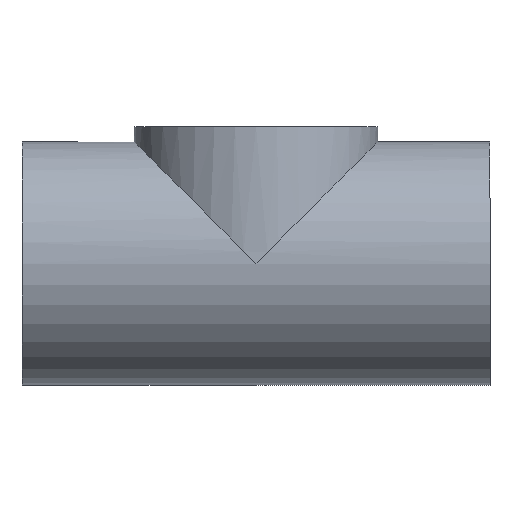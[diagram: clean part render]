
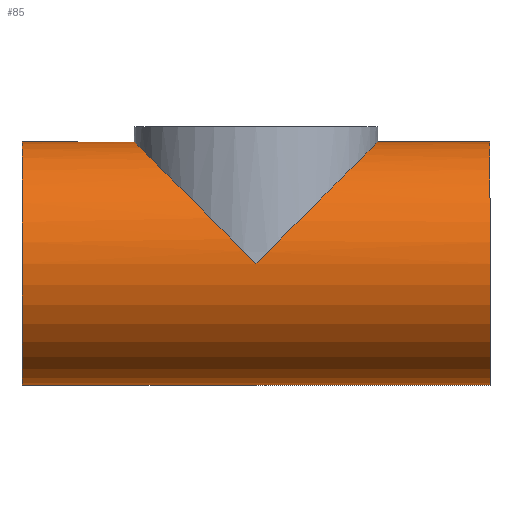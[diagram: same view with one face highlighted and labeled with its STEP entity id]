
A CAD part, front view. The second image highlights one B-rep face of the part: STEP entity #85.
In plain terms, the highlighted cylindrical face has radius 52 mm (diameter 104 mm), a full revolution.
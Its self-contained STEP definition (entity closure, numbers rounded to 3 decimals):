
#21 = EDGE_CURVE('',#22,#22,#24,.T.);
#22 = VERTEX_POINT('',#23);
#23 = CARTESIAN_POINT('',(-100.,0.,-52.));
#24 = SURFACE_CURVE('',#25,(#30,#42),.PCURVE_S1.);
#25 = CIRCLE('',#26,52.);
#26 = AXIS2_PLACEMENT_3D('',#27,#28,#29);
#27 = CARTESIAN_POINT('',(-100.,0.,0.));
#28 = DIRECTION('',(1.,-0.,0.));
#29 = DIRECTION('',(0.,0.,-1.));
#30 = PCURVE('',#31,#36);
#31 = PLANE('',#32);
#32 = AXIS2_PLACEMENT_3D('',#33,#34,#35);
#33 = CARTESIAN_POINT('',(-100.,0.,0.));
#34 = DIRECTION('',(1.,0.,0.));
#35 = DIRECTION('',(0.,0.,-1.));
#36 = DEFINITIONAL_REPRESENTATION('',(#37),#41);
#37 = CIRCLE('',#38,52.);
#38 = AXIS2_PLACEMENT_2D('',#39,#40);
#39 = CARTESIAN_POINT('',(0.,0.));
#40 = DIRECTION('',(1.,0.));
#41 = ( GEOMETRIC_REPRESENTATION_CONTEXT(2) 
PARAMETRIC_REPRESENTATION_CONTEXT() REPRESENTATION_CONTEXT('2D SPACE',''
  ) );
#42 = PCURVE('',#43,#48);
#43 = CYLINDRICAL_SURFACE('',#44,52.);
#44 = AXIS2_PLACEMENT_3D('',#45,#46,#47);
#45 = CARTESIAN_POINT('',(-100.,0.,0.));
#46 = DIRECTION('',(1.,0.,0.));
#47 = DIRECTION('',(0.,0.,-1.));
#48 = DEFINITIONAL_REPRESENTATION('',(#49),#53);
#49 = LINE('',#50,#51);
#50 = CARTESIAN_POINT('',(0.,0.));
#51 = VECTOR('',#52,1.);
#52 = DIRECTION('',(1.,0.));
#53 = ( GEOMETRIC_REPRESENTATION_CONTEXT(2) 
PARAMETRIC_REPRESENTATION_CONTEXT() REPRESENTATION_CONTEXT('2D SPACE',''
  ) );
#85 = ADVANCED_FACE('',(#86,#140),#43,.T.);
#86 = FACE_BOUND('',#87,.T.);
#87 = EDGE_LOOP('',(#88,#111,#138,#139));
#88 = ORIENTED_EDGE('',*,*,#89,.T.);
#89 = EDGE_CURVE('',#22,#90,#92,.T.);
#90 = VERTEX_POINT('',#91);
#91 = CARTESIAN_POINT('',(100.,0.,-52.));
#92 = SEAM_CURVE('',#93,(#97,#104),.PCURVE_S1.);
#93 = LINE('',#94,#95);
#94 = CARTESIAN_POINT('',(-100.,0.,-52.));
#95 = VECTOR('',#96,1.);
#96 = DIRECTION('',(1.,0.,0.));
#97 = PCURVE('',#43,#98);
#98 = DEFINITIONAL_REPRESENTATION('',(#99),#103);
#99 = LINE('',#100,#101);
#100 = CARTESIAN_POINT('',(6.283,-0.));
#101 = VECTOR('',#102,1.);
#102 = DIRECTION('',(0.,1.));
#103 = ( GEOMETRIC_REPRESENTATION_CONTEXT(2) 
PARAMETRIC_REPRESENTATION_CONTEXT() REPRESENTATION_CONTEXT('2D SPACE',''
  ) );
#104 = PCURVE('',#43,#105);
#105 = DEFINITIONAL_REPRESENTATION('',(#106),#110);
#106 = LINE('',#107,#108);
#107 = CARTESIAN_POINT('',(0.,-0.));
#108 = VECTOR('',#109,1.);
#109 = DIRECTION('',(0.,1.));
#110 = ( GEOMETRIC_REPRESENTATION_CONTEXT(2) 
PARAMETRIC_REPRESENTATION_CONTEXT() REPRESENTATION_CONTEXT('2D SPACE',''
  ) );
#111 = ORIENTED_EDGE('',*,*,#112,.F.);
#112 = EDGE_CURVE('',#90,#90,#113,.T.);
#113 = SURFACE_CURVE('',#114,(#119,#126),.PCURVE_S1.);
#114 = CIRCLE('',#115,52.);
#115 = AXIS2_PLACEMENT_3D('',#116,#117,#118);
#116 = CARTESIAN_POINT('',(100.,0.,0.));
#117 = DIRECTION('',(1.,-0.,0.));
#118 = DIRECTION('',(0.,0.,-1.));
#119 = PCURVE('',#43,#120);
#120 = DEFINITIONAL_REPRESENTATION('',(#121),#125);
#121 = LINE('',#122,#123);
#122 = CARTESIAN_POINT('',(0.,200.));
#123 = VECTOR('',#124,1.);
#124 = DIRECTION('',(1.,0.));
#125 = ( GEOMETRIC_REPRESENTATION_CONTEXT(2) 
PARAMETRIC_REPRESENTATION_CONTEXT() REPRESENTATION_CONTEXT('2D SPACE',''
  ) );
#126 = PCURVE('',#127,#132);
#127 = PLANE('',#128);
#128 = AXIS2_PLACEMENT_3D('',#129,#130,#131);
#129 = CARTESIAN_POINT('',(100.,0.,0.));
#130 = DIRECTION('',(1.,0.,0.));
#131 = DIRECTION('',(0.,0.,-1.));
#132 = DEFINITIONAL_REPRESENTATION('',(#133),#137);
#133 = CIRCLE('',#134,52.);
#134 = AXIS2_PLACEMENT_2D('',#135,#136);
#135 = CARTESIAN_POINT('',(0.,0.));
#136 = DIRECTION('',(1.,0.));
#137 = ( GEOMETRIC_REPRESENTATION_CONTEXT(2) 
PARAMETRIC_REPRESENTATION_CONTEXT() REPRESENTATION_CONTEXT('2D SPACE',''
  ) );
#138 = ORIENTED_EDGE('',*,*,#89,.F.);
#139 = ORIENTED_EDGE('',*,*,#21,.T.);
#140 = FACE_BOUND('',#141,.T.);
#141 = EDGE_LOOP('',(#142,#189,#227));
#142 = ORIENTED_EDGE('',*,*,#143,.F.);
#143 = EDGE_CURVE('',#144,#146,#148,.T.);
#144 = VERTEX_POINT('',#145);
#145 = CARTESIAN_POINT('',(0.,52.,0.));
#146 = VERTEX_POINT('',#147);
#147 = CARTESIAN_POINT('',(0.,-52.,0.));
#148 = SURFACE_CURVE('',#149,(#154,#169),.PCURVE_S1.);
#149 = ELLIPSE('',#150,73.539,52.);
#150 = AXIS2_PLACEMENT_3D('',#151,#152,#153);
#151 = CARTESIAN_POINT('',(0.,0.,0.));
#152 = DIRECTION('',(0.707,-0.,0.707));
#153 = DIRECTION('',(0.707,0.,-0.707));
#154 = PCURVE('',#43,#155);
#155 = DEFINITIONAL_REPRESENTATION('',(#156),#168);
#156 = B_SPLINE_CURVE_WITH_KNOTS('',10,(#157,#158,#159,#160,#161,#162,
    #163,#164,#165,#166,#167),.UNSPECIFIED.,.F.,.F.,(11,11),(
    1.571,4.712),.PIECEWISE_BEZIER_KNOTS.);
#157 = CARTESIAN_POINT('',(1.571,100.));
#158 = CARTESIAN_POINT('',(1.885,83.664));
#159 = CARTESIAN_POINT('',(2.199,67.327));
#160 = CARTESIAN_POINT('',(2.513,53.23));
#161 = CARTESIAN_POINT('',(2.827,43.612));
#162 = CARTESIAN_POINT('',(3.142,40.186));
#163 = CARTESIAN_POINT('',(3.456,43.612));
#164 = CARTESIAN_POINT('',(3.77,53.23));
#165 = CARTESIAN_POINT('',(4.084,67.327));
#166 = CARTESIAN_POINT('',(4.398,83.664));
#167 = CARTESIAN_POINT('',(4.712,100.));
#168 = ( GEOMETRIC_REPRESENTATION_CONTEXT(2) 
PARAMETRIC_REPRESENTATION_CONTEXT() REPRESENTATION_CONTEXT('2D SPACE',''
  ) );
#169 = PCURVE('',#170,#175);
#170 = CYLINDRICAL_SURFACE('',#171,52.);
#171 = AXIS2_PLACEMENT_3D('',#172,#173,#174);
#172 = CARTESIAN_POINT('',(0.,0.,0.));
#173 = DIRECTION('',(0.,0.,1.));
#174 = DIRECTION('',(1.,0.,0.));
#175 = DEFINITIONAL_REPRESENTATION('',(#176),#188);
#176 = B_SPLINE_CURVE_WITH_KNOTS('',10,(#177,#178,#179,#180,#181,#182,
    #183,#184,#185,#186,#187),.UNSPECIFIED.,.F.,.F.,(11,11),(
    1.571,4.712),.PIECEWISE_BEZIER_KNOTS.);
#177 = CARTESIAN_POINT('',(1.571,0.));
#178 = CARTESIAN_POINT('',(1.885,16.336));
#179 = CARTESIAN_POINT('',(2.199,32.673));
#180 = CARTESIAN_POINT('',(2.513,46.77));
#181 = CARTESIAN_POINT('',(2.827,56.388));
#182 = CARTESIAN_POINT('',(3.142,59.814));
#183 = CARTESIAN_POINT('',(3.456,56.388));
#184 = CARTESIAN_POINT('',(3.77,46.77));
#185 = CARTESIAN_POINT('',(4.084,32.673));
#186 = CARTESIAN_POINT('',(4.398,16.336));
#187 = CARTESIAN_POINT('',(4.712,0.));
#188 = ( GEOMETRIC_REPRESENTATION_CONTEXT(2) 
PARAMETRIC_REPRESENTATION_CONTEXT() REPRESENTATION_CONTEXT('2D SPACE',''
  ) );
#189 = ORIENTED_EDGE('',*,*,#190,.T.);
#190 = EDGE_CURVE('',#144,#191,#193,.T.);
#191 = VERTEX_POINT('',#192);
#192 = CARTESIAN_POINT('',(52.,0.,52.));
#193 = SURFACE_CURVE('',#194,(#199,#213),.PCURVE_S1.);
#194 = ELLIPSE('',#195,73.539,52.);
#195 = AXIS2_PLACEMENT_3D('',#196,#197,#198);
#196 = CARTESIAN_POINT('',(0.,0.,0.));
#197 = DIRECTION('',(0.707,0.,-0.707));
#198 = DIRECTION('',(0.707,0.,0.707));
#199 = PCURVE('',#43,#200);
#200 = DEFINITIONAL_REPRESENTATION('',(#201),#212);
#201 = B_SPLINE_CURVE_WITH_KNOTS('',9,(#202,#203,#204,#205,#206,#207,
    #208,#209,#210,#211),.UNSPECIFIED.,.F.,.F.,(10,10),(4.712,
    6.283),.PIECEWISE_BEZIER_KNOTS.);
#202 = CARTESIAN_POINT('',(1.571,100.));
#203 = CARTESIAN_POINT('',(1.745,109.076));
#204 = CARTESIAN_POINT('',(1.92,118.151));
#205 = CARTESIAN_POINT('',(2.094,126.827));
#206 = CARTESIAN_POINT('',(2.269,134.703));
#207 = CARTESIAN_POINT('',(2.443,141.413));
#208 = CARTESIAN_POINT('',(2.618,146.654));
#209 = CARTESIAN_POINT('',(2.793,150.218));
#210 = CARTESIAN_POINT('',(2.967,152.));
#211 = CARTESIAN_POINT('',(3.142,152.));
#212 = ( GEOMETRIC_REPRESENTATION_CONTEXT(2) 
PARAMETRIC_REPRESENTATION_CONTEXT() REPRESENTATION_CONTEXT('2D SPACE',''
  ) );
#213 = PCURVE('',#170,#214);
#214 = DEFINITIONAL_REPRESENTATION('',(#215),#226);
#215 = B_SPLINE_CURVE_WITH_KNOTS('',9,(#216,#217,#218,#219,#220,#221,
    #222,#223,#224,#225),.UNSPECIFIED.,.F.,.F.,(10,10),(4.712,
    6.283),.PIECEWISE_BEZIER_KNOTS.);
#216 = CARTESIAN_POINT('',(1.571,0.));
#217 = CARTESIAN_POINT('',(1.396,9.076));
#218 = CARTESIAN_POINT('',(1.222,18.151));
#219 = CARTESIAN_POINT('',(1.047,26.827));
#220 = CARTESIAN_POINT('',(0.873,34.703));
#221 = CARTESIAN_POINT('',(0.698,41.413));
#222 = CARTESIAN_POINT('',(0.524,46.654));
#223 = CARTESIAN_POINT('',(0.349,50.218));
#224 = CARTESIAN_POINT('',(0.175,52.));
#225 = CARTESIAN_POINT('',(0.,52.));
#226 = ( GEOMETRIC_REPRESENTATION_CONTEXT(2) 
PARAMETRIC_REPRESENTATION_CONTEXT() REPRESENTATION_CONTEXT('2D SPACE',''
  ) );
#227 = ORIENTED_EDGE('',*,*,#228,.T.);
#228 = EDGE_CURVE('',#191,#146,#229,.T.);
#229 = SURFACE_CURVE('',#230,(#235,#249),.PCURVE_S1.);
#230 = ELLIPSE('',#231,73.539,52.);
#231 = AXIS2_PLACEMENT_3D('',#232,#233,#234);
#232 = CARTESIAN_POINT('',(0.,0.,0.));
#233 = DIRECTION('',(0.707,0.,-0.707));
#234 = DIRECTION('',(0.707,0.,0.707));
#235 = PCURVE('',#43,#236);
#236 = DEFINITIONAL_REPRESENTATION('',(#237),#248);
#237 = B_SPLINE_CURVE_WITH_KNOTS('',9,(#238,#239,#240,#241,#242,#243,
    #244,#245,#246,#247),.UNSPECIFIED.,.F.,.F.,(10,10),(0.,
    1.571),.PIECEWISE_BEZIER_KNOTS.);
#238 = CARTESIAN_POINT('',(3.142,152.));
#239 = CARTESIAN_POINT('',(3.316,152.));
#240 = CARTESIAN_POINT('',(3.491,150.218));
#241 = CARTESIAN_POINT('',(3.665,146.654));
#242 = CARTESIAN_POINT('',(3.84,141.413));
#243 = CARTESIAN_POINT('',(4.014,134.703));
#244 = CARTESIAN_POINT('',(4.189,126.827));
#245 = CARTESIAN_POINT('',(4.363,118.151));
#246 = CARTESIAN_POINT('',(4.538,109.076));
#247 = CARTESIAN_POINT('',(4.712,100.));
#248 = ( GEOMETRIC_REPRESENTATION_CONTEXT(2) 
PARAMETRIC_REPRESENTATION_CONTEXT() REPRESENTATION_CONTEXT('2D SPACE',''
  ) );
#249 = PCURVE('',#170,#250);
#250 = DEFINITIONAL_REPRESENTATION('',(#251),#262);
#251 = B_SPLINE_CURVE_WITH_KNOTS('',9,(#252,#253,#254,#255,#256,#257,
    #258,#259,#260,#261),.UNSPECIFIED.,.F.,.F.,(10,10),(0.,
    1.571),.PIECEWISE_BEZIER_KNOTS.);
#252 = CARTESIAN_POINT('',(6.283,52.));
#253 = CARTESIAN_POINT('',(6.109,52.));
#254 = CARTESIAN_POINT('',(5.934,50.218));
#255 = CARTESIAN_POINT('',(5.76,46.654));
#256 = CARTESIAN_POINT('',(5.585,41.413));
#257 = CARTESIAN_POINT('',(5.411,34.703));
#258 = CARTESIAN_POINT('',(5.236,26.827));
#259 = CARTESIAN_POINT('',(5.061,18.151));
#260 = CARTESIAN_POINT('',(4.887,9.076));
#261 = CARTESIAN_POINT('',(4.712,0.));
#262 = ( GEOMETRIC_REPRESENTATION_CONTEXT(2) 
PARAMETRIC_REPRESENTATION_CONTEXT() REPRESENTATION_CONTEXT('2D SPACE',''
  ) );
